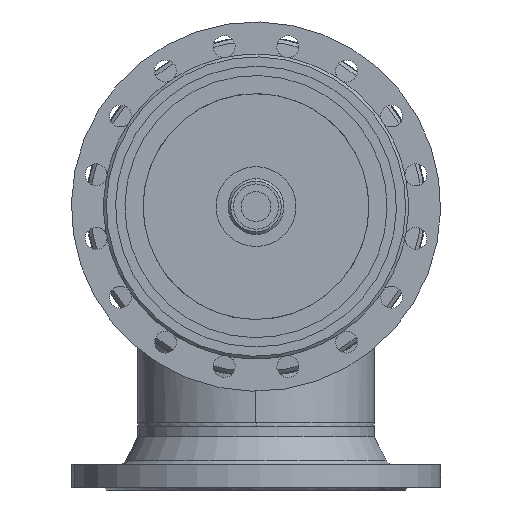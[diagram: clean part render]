
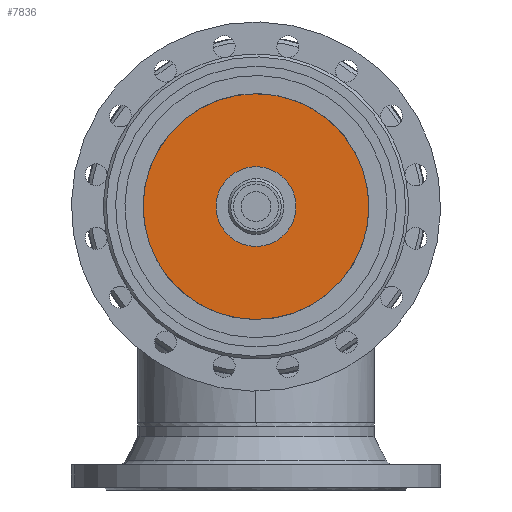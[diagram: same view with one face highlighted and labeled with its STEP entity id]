
A CAD part, front view. The second image highlights one B-rep face of the part: STEP entity #7836.
In plain terms, the highlighted planar face has unit normal (0, -1, 0).
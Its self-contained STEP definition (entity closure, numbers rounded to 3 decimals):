
#17882 = CIRCLE ( 'NONE', #17883, 60. ) ;
#17883 = AXIS2_PLACEMENT_3D ( 'NONE', #17884, #17885, #17886 ) ;
#17884 = CARTESIAN_POINT ( 'NONE',  ( 0., -58., 0. ) ) ;
#17885 = DIRECTION ( 'NONE',  ( 0., -1., 0. ) ) ;
#17886 = DIRECTION ( 'NONE',  ( 0., 0., -1. ) ) ;
#2396 = ORIENTED_EDGE ( 'NONE', *, *, #10645, .T. ) ;
#2946 = EDGE_CURVE ( 'NONE', #6834, #4756, #17882, .T. ) ;
#3524 = EDGE_LOOP ( 'NONE', ( #15777, #2396 ) ) ;
#3701 = ORIENTED_EDGE ( 'NONE', *, *, #2946, .F. ) ;
#4070 = CARTESIAN_POINT ( 'NONE',  ( 0., -58., 60. ) ) ;
#4756 = VERTEX_POINT ( 'NONE', #22328 ) ;
#5336 = FACE_BOUND ( 'NONE', #7665, .T. ) ;
#5337 = FACE_OUTER_BOUND ( 'NONE', #3524, .T. ) ;
#5338 = PLANE ( 'NONE',  #5339 ) ;
#5339 = AXIS2_PLACEMENT_3D ( 'NONE', #5340, #5341, #5342 ) ;
#5340 = CARTESIAN_POINT ( 'NONE',  ( 0., -58., 0. ) ) ;
#5341 = DIRECTION ( 'NONE',  ( 0., -1., 0. ) ) ;
#5342 = DIRECTION ( 'NONE',  ( 0., 0., -1. ) ) ;
#5943 = CIRCLE ( 'NONE', #5944, 185. ) ;
#5944 = AXIS2_PLACEMENT_3D ( 'NONE', #5945, #5946, #5947 ) ;
#5945 = CARTESIAN_POINT ( 'NONE',  ( 0., -58., 0. ) ) ;
#5946 = DIRECTION ( 'NONE',  ( 0., -1., 0. ) ) ;
#5947 = DIRECTION ( 'NONE',  ( 0., 0., -1. ) ) ;
#22328 = CARTESIAN_POINT ( 'NONE',  ( 0., -58., -60. ) ) ;
#6834 = VERTEX_POINT ( 'NONE', #4070 ) ;
#7665 = EDGE_LOOP ( 'NONE', ( #10005, #3701 ) ) ;
#7836 = ADVANCED_FACE ( 'NONE', ( #5336, #5337 ), #5338, .T. ) ;
#7999 = EDGE_CURVE ( 'NONE', #9793, #10214, #5943, .T. ) ;
#9793 = VERTEX_POINT ( 'NONE', #12241 ) ;
#10005 = ORIENTED_EDGE ( 'NONE', *, *, #10785, .F. ) ;
#10214 = VERTEX_POINT ( 'NONE', #12443 ) ;
#10645 = EDGE_CURVE ( 'NONE', #10214, #9793, #12977, .T. ) ;
#10785 = EDGE_CURVE ( 'NONE', #4756, #6834, #13019, .T. ) ;
#12241 = CARTESIAN_POINT ( 'NONE',  ( 0., -58., 185. ) ) ;
#12443 = CARTESIAN_POINT ( 'NONE',  ( 0., -58., -185. ) ) ;
#12977 = CIRCLE ( 'NONE', #12978, 185. ) ;
#12978 = AXIS2_PLACEMENT_3D ( 'NONE', #12979, #12980, #12981 ) ;
#12979 = CARTESIAN_POINT ( 'NONE',  ( 0., -58., 0. ) ) ;
#12980 = DIRECTION ( 'NONE',  ( 0., -1., 0. ) ) ;
#12981 = DIRECTION ( 'NONE',  ( 0., 0., -1. ) ) ;
#13019 = CIRCLE ( 'NONE', #13020, 60. ) ;
#13020 = AXIS2_PLACEMENT_3D ( 'NONE', #13021, #13022, #13023 ) ;
#13021 = CARTESIAN_POINT ( 'NONE',  ( 0., -58., 0. ) ) ;
#13022 = DIRECTION ( 'NONE',  ( 0., -1., 0. ) ) ;
#13023 = DIRECTION ( 'NONE',  ( 0., 0., -1. ) ) ;
#15777 = ORIENTED_EDGE ( 'NONE', *, *, #7999, .T. ) ;
